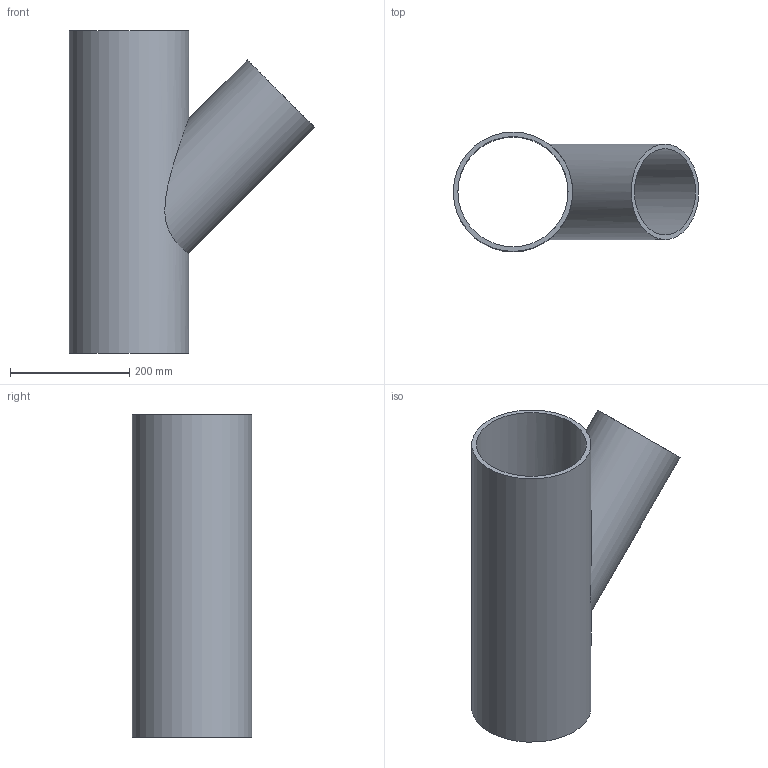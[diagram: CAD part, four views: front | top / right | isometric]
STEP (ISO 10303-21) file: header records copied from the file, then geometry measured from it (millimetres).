
FILE_DESCRIPTION(/* description */ (''),/* implementation_level */ '2;1');
FILE_NAME(/* name */ 'C:\Planerdaten\Export PLA\PRO_101557\stp\370145.stp',/* time_stamp */ '2021-09-30T15:08:53+02:00',/* author */ ('JANAN'),/* organization */ (''),/* preprocessor_version */ 'ST-DEVELOPER v16.13',/* originating_system */ 'Autodesk Inventor 2018',/* authorisation */ '');
FILE_SCHEMA (('AUTOMOTIVE_DESIGN { 1 0 10303 214 3 1 1 }'));
Length unit declared in the file: millimetre
Products named in the file (1): tmpEE9C.tmp
Bounding box: 411.13 x 200 x 540 mm (x, y, z)
Volume: 3207101.1 mm3; surface area: 846179.7 mm2
Topology: 1 solids, 1 shells, 7 faces, 17 edges, 12 vertices
Faces by surface type: cylinder 4, plane 3
Full cylindrical faces by diameter (mm): 144.6 x1, 160 x1, 184.6 x1, 200 x1
Entity records: 376 total; most frequent: CARTESIAN_POINT 198, DIRECTION 28, EDGE_LOOP 16, ORIENTED_EDGE 16, AXIS2_PLACEMENT_3D 14, FACE_BOUND 9, VERTEX_POINT 8, EDGE_CURVE 8
